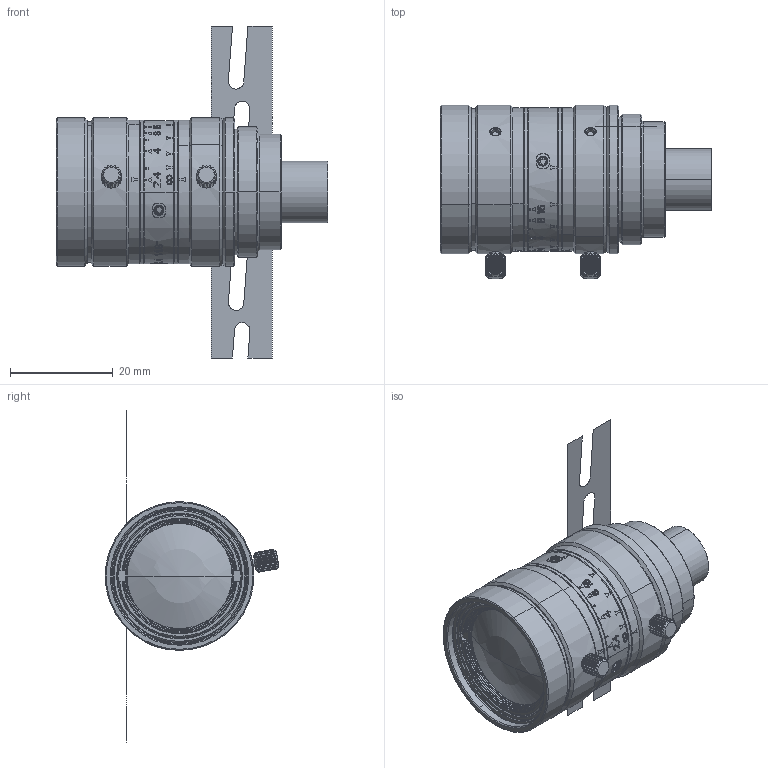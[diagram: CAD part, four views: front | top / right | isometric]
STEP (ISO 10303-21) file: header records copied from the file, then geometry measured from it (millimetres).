
FILE_DESCRIPTION((''),'2;1');
FILE_NAME('MVL-HF0824M-10MP__ASM','2020-07-10T15:01:29',('dihaoping'),(''),'CREO PARAMETRIC BY PTC INC, 2017260','CREO PARAMETRIC BY PTC INC, 2017260','');
FILE_SCHEMA(('CONFIG_CONTROL_DESIGN'));
Length unit declared in the file: millimetre
Products named in the file (5): MVL-HF0824M-10MP_273_1; MVL-HF0824M-10MP273_2; MVL-HF0824M-10MP_273_3; MVL-HF0824M-10MP_273_ASM; MVL-HF0824M-10MP__ASM
Assembly tree (4 placements, depth 3):
  MVL-HF0824M-10MP__ASM
    MVL-HF0824M-10MP_273_ASM
      MVL-HF0824M-10MP_273_1
      MVL-HF0824M-10MP273_2
      MVL-HF0824M-10MP_273_3
Bounding box: 52.9 x 33.87 x 64.72 mm (x, y, z)
Volume: 24652.2 mm3; surface area: 10969.1 mm2
Topology: 3 solids, 43 shells, 1262 faces, 3565 edges, 2407 vertices
Faces by surface type: plane 587, cylinder 294, bspline 273, cone 98, torus 6, sphere 4
Entity records: 50399 total; most frequent: CARTESIAN_POINT 19043, ORIENTED_EDGE 6922, DIRECTION 5833, EDGE_CURVE 3561, VERTEX_POINT 2407, AXIS2_PLACEMENT_3D 2170, VECTOR 1493, LINE 1493
